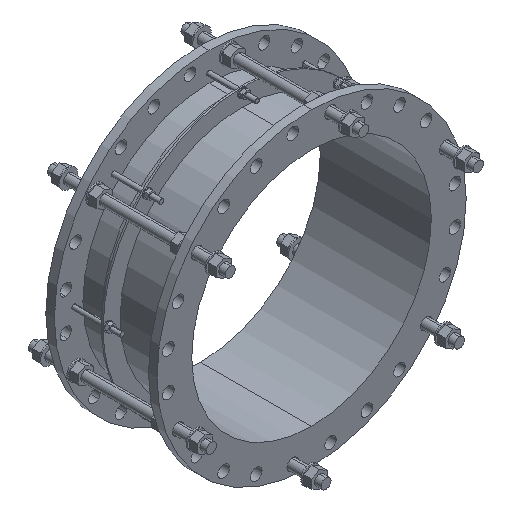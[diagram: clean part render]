
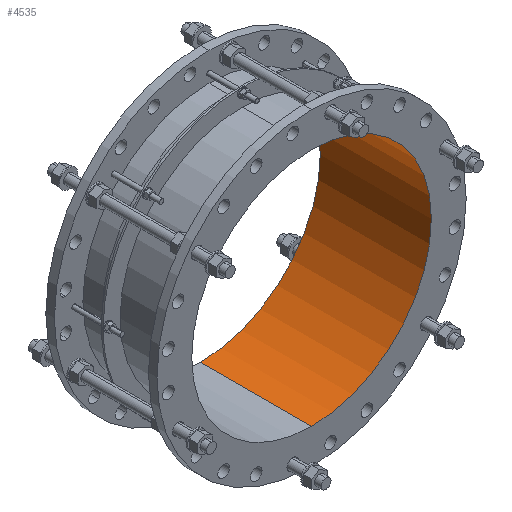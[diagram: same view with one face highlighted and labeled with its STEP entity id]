
A CAD part, isometric view. The second image highlights one B-rep face of the part: STEP entity #4535.
In plain terms, the highlighted cylindrical face has radius 323.5 mm (diameter 647 mm), a partial arc.
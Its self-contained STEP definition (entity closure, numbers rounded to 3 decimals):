
#7=DIRECTION('',(0.,-1.,0.));
#8=VECTOR('',#7,300.);
#9=CARTESIAN_POINT('',(0.,0.,-323.5));
#10=LINE('',#9,#8);
#11=CARTESIAN_POINT('',(0.,0.,0.));
#12=DIRECTION('',(0.,-1.,0.));
#13=DIRECTION('',(0.,0.,-1.));
#14=AXIS2_PLACEMENT_3D('',#11,#12,#13);
#16=DIRECTION('',(0.,-1.,0.));
#17=VECTOR('',#16,300.);
#18=CARTESIAN_POINT('',(0.,0.,323.5));
#19=LINE('',#18,#17);
#1551=CARTESIAN_POINT('',(0.,-300.,0.));
#1552=DIRECTION('',(0.,-1.,0.));
#1553=DIRECTION('',(0.,0.,-1.));
#1554=AXIS2_PLACEMENT_3D('',#1551,#1552,#1553);
#3606=CARTESIAN_POINT('',(0.,0.,-323.5));
#3607=CARTESIAN_POINT('',(0.,-300.,-323.5));
#3608=VERTEX_POINT('',#3606);
#3609=VERTEX_POINT('',#3607);
#3626=CARTESIAN_POINT('',(0.,0.,323.5));
#3627=CARTESIAN_POINT('',(0.,-300.,323.5));
#3628=VERTEX_POINT('',#3626);
#3629=VERTEX_POINT('',#3627);
#4522=CARTESIAN_POINT('',(0.,-315.,0.));
#4523=DIRECTION('',(0.,1.,0.));
#4524=DIRECTION('',(0.,0.,-1.));
#4525=AXIS2_PLACEMENT_3D('',#4522,#4523,#4524);
#4526=CYLINDRICAL_SURFACE('',#4525,323.5);
#4527=ORIENTED_EDGE('',*,*,#4511,.F.);
#4529=ORIENTED_EDGE('',*,*,#4528,.T.);
#4530=ORIENTED_EDGE('',*,*,#4515,.T.);
#4532=ORIENTED_EDGE('',*,*,#4531,.F.);
#4533=EDGE_LOOP('',(#4527,#4529,#4530,#4532));
#4534=FACE_OUTER_BOUND('',#4533,.F.);
#4535=ADVANCED_FACE('',(#4534),#4526,.F.);
#15=CIRCLE('',#14,323.5);
#1555=CIRCLE('',#1554,323.5);
#4511=EDGE_CURVE('',#3608,#3609,#10,.T.);
#4515=EDGE_CURVE('',#3628,#3629,#19,.T.);
#4528=EDGE_CURVE('',#3608,#3628,#15,.T.);
#4531=EDGE_CURVE('',#3609,#3629,#1555,.T.);
